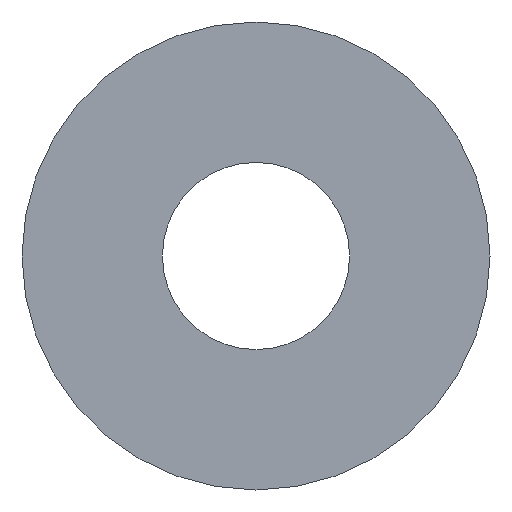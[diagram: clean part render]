
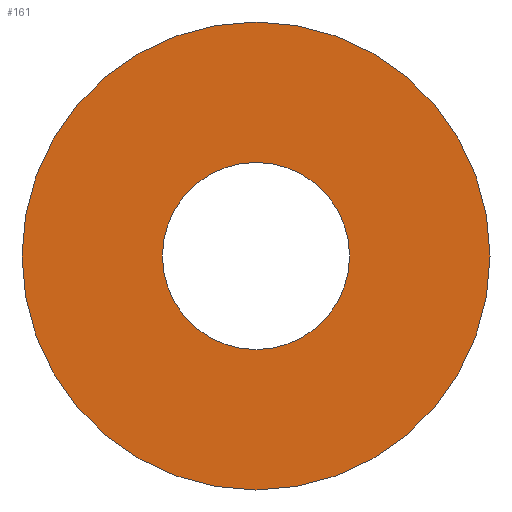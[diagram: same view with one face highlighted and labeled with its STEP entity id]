
A CAD part, left-side view. The second image highlights one B-rep face of the part: STEP entity #161.
In plain terms, the highlighted planar face has unit normal (-1, 0, 0).
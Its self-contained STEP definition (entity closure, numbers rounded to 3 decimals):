
#4 = EDGE_LOOP ( 'NONE', ( #66 ) ) ;
#23 = DIRECTION ( 'NONE',  ( -1., 0., 0. ) ) ;
#26 = FACE_OUTER_BOUND ( 'NONE', #4, .T. ) ;
#41 = VERTEX_POINT ( 'NONE', #119 ) ;
#44 = CIRCLE ( 'NONE', #70, 25. ) ;
#56 = AXIS2_PLACEMENT_3D ( 'NONE', #100, #23, #117 ) ;
#59 = CARTESIAN_POINT ( 'NONE',  ( -60., 0., 0. ) ) ;
#66 = ORIENTED_EDGE ( 'NONE', *, *, #123, .T. ) ;
#70 = AXIS2_PLACEMENT_3D ( 'NONE', #59, #156, #74 ) ;
#74 = DIRECTION ( 'NONE',  ( 0., 0., 1. ) ) ;
#78 = PLANE ( 'NONE',  #144 ) ;
#90 = DIRECTION ( 'NONE',  ( 0., 0., -1. ) ) ;
#100 = CARTESIAN_POINT ( 'NONE',  ( -60., 0., 0. ) ) ;
#104 = CARTESIAN_POINT ( 'NONE',  ( -60., 0., 25. ) ) ;
#112 = CIRCLE ( 'NONE', #56, 10. ) ;
#117 = DIRECTION ( 'NONE',  ( 0., 0., 1. ) ) ;
#119 = CARTESIAN_POINT ( 'NONE',  ( -60., 0., 10. ) ) ;
#122 = ORIENTED_EDGE ( 'NONE', *, *, #126, .F. ) ;
#123 = EDGE_CURVE ( 'NONE', #131, #131, #44, .T. ) ;
#126 = EDGE_CURVE ( 'NONE', #41, #41, #112, .T. ) ;
#131 = VERTEX_POINT ( 'NONE', #104 ) ;
#143 = CARTESIAN_POINT ( 'NONE',  ( -60., 10., 0. ) ) ;
#144 = AXIS2_PLACEMENT_3D ( 'NONE', #143, #157, #90 ) ;
#151 = FACE_BOUND ( 'NONE', #173, .T. ) ;
#156 = DIRECTION ( 'NONE',  ( -1., 0., 0. ) ) ;
#157 = DIRECTION ( 'NONE',  ( 1., 0., 0. ) ) ;
#161 = ADVANCED_FACE ( 'NONE', ( #151, #26 ), #78, .F. ) ;
#173 = EDGE_LOOP ( 'NONE', ( #122 ) ) ;
